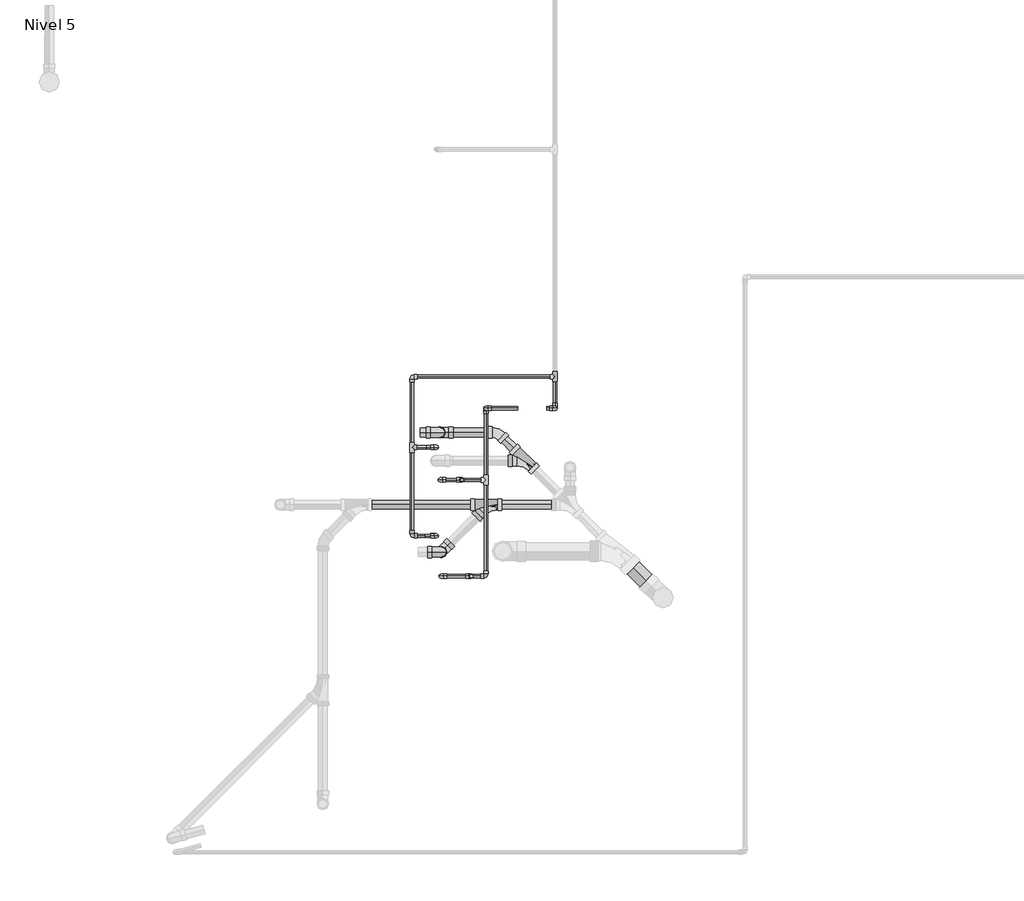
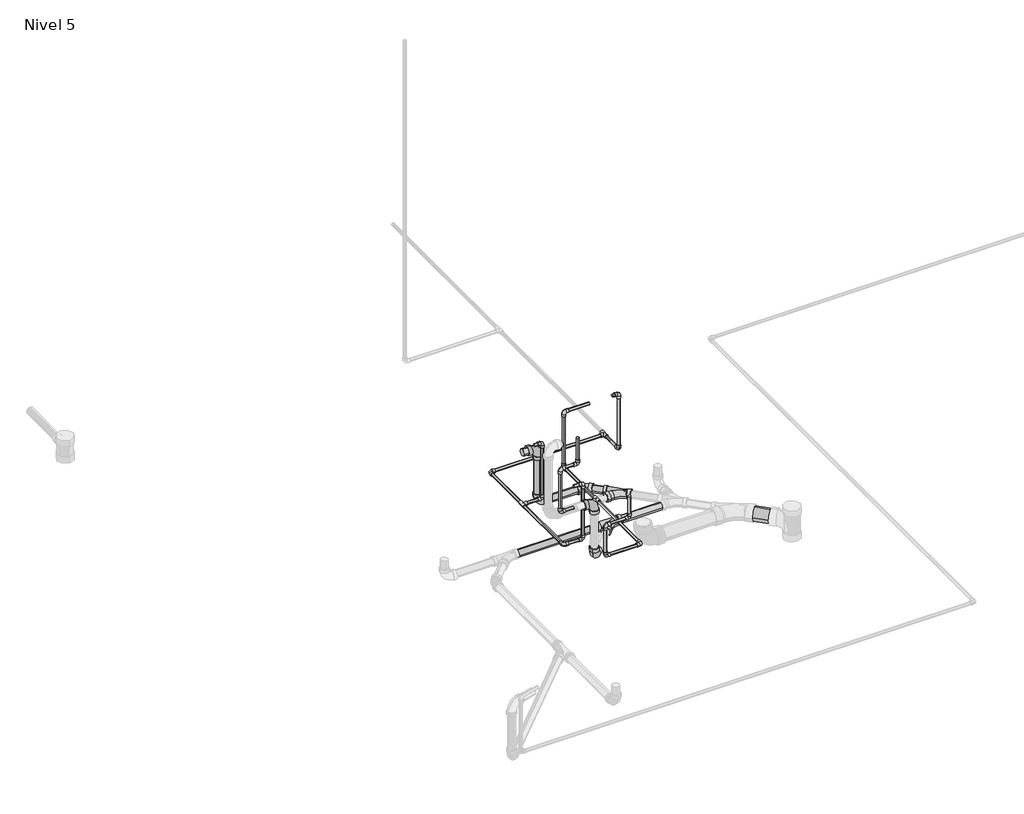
# One storey, part 2 of 6: 31 pipe segments, 27 pipe fittings.
"""IFC4 building model written with IfcOpenShell, lengths in millimetres."""

from ifc_helpers import new_model, si_unit, point, frame, frame_2d, origin, place, context, project, spatial, circle_curve, trimmed, segment, composite_curve, outline, extrude, transform, mapped, element, save
from components import pipe_fitting_ab418b84, pipe_fitting_0163322b, m_codo_pvc_serie_40_9ad74631, m_codo_pvc_serie_40_dwv1_5c0ec739, m_codo_pvc_serie_40_dwv1_6f1a2495

model = new_model("IFC4")

# Units and contexts
model_context = context("Model", 3, world=origin())
ifc_project = project(units=[si_unit("LENGTHUNIT", "METRE", prefix="MILLI")], contexts=[model_context])

# Site, building, storey
site = spatial("IfcSite", under=ifc_project)
building = spatial("IfcBuilding", under=site)
storey = spatial("IfcBuildingStorey", under=building, Name="Nivel 5", Elevation=10750.0)

# Pipe fittings
placement = place(None, origin())
pipe_fitting_shape = pipe_fitting_ab418b84(model_context)
element("IfcPipeFitting", 1, ObjectType="M_Te - PVC - Serie 40 : Estándar", at=placement, inside=storey, context=model_context, shape_type="MappedRepresentation", body=[
    mapped(pipe_fitting_shape, transform((1556.5388199, 4671.6215833, 10700.0), x_axis=(0.0, 1.0, 0.0), y_axis=(1.0, 0.0, 0.0), z_axis=(0.0, 0.0, -1.0))),
])
element("IfcPipeFitting", 2, ObjectType="M_Te - PVC - Serie 40 : Estándar", at=placement, inside=storey, context=model_context, shape_type="MappedRepresentation", body=[
    mapped(pipe_fitting_shape, transform((1981.5388199, 5307.4168039, 10700.0), x_axis=(0.0, -1.0, 0.0), y_axis=(1.0, 0.0, 0.0), z_axis=(0.0, 0.0, 1.0))),
])
element("IfcPipeFitting", 3, ObjectType="M_Te - PVC - Serie 40 : Estándar", at=placement, inside=storey, context=model_context, shape_type="MappedRepresentation", body=[
    mapped(pipe_fitting_shape, transform((1101.5388199, 4872.3958422, 10700.0), x_axis=(0.0, 1.0, 0.0), y_axis=(-1.0, 0.0, 0.0), z_axis=(0.0, 0.0, 1.0))),
])
pipe_fitting_2_shape = pipe_fitting_0163322b(model_context)
element("IfcPipeFitting", 4, ObjectType="M_Sanitario con te de reducción - PVC - Serie 40 - DWV : Estándar", at=placement, inside=storey, context=model_context, shape_type="MappedRepresentation", body=[
    mapped(pipe_fitting_2_shape, transform((1572.0708268, 4519.5791327, 10600.0), x_axis=(-1.0, 0.0, 0.0), y_axis=(0.0, 1.0, 0.0), z_axis=(0.0, 0.0, -1.0))),
])
element("IfcPipeFitting", 5, ObjectType="M_Sanitario con te de reducción - PVC - Serie 40 - DWV : Estándar", at=placement, inside=storey, context=model_context, shape_type="MappedRepresentation", body=[
    mapped(pipe_fitting_2_shape, transform((1802.6920547, 4790.0, 10600.0), x_axis=(-0.7071067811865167, 0.7071067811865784, 0.0), y_axis=(0.7071067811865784, 0.7071067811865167, 0.0), z_axis=(0.0, 0.0, -1.0))),
])
m_codo_pvc_serie_40_shape = m_codo_pvc_serie_40_9ad74631(model_context)
element("IfcPipeFitting", 6, ObjectType="M_Codo - PVC - Serie 40 : Estándar", at=placement, inside=storey, context=model_context, shape_type="MappedRepresentation", body=[
    mapped(m_codo_pvc_serie_40_shape, transform((1981.5388199, 5112.7114626, 10700.0), x_axis=(0.0, -1.0, 0.0), y_axis=(0.0, 0.0, 1.0), z_axis=(-1.0, 0.0, 0.0))),
])
element("IfcPipeFitting", 7, ObjectType="M_Codo - PVC - Serie 40 : Estándar", at=placement, inside=storey, context=model_context, shape_type="MappedRepresentation", body=[
    mapped(m_codo_pvc_serie_40_shape, transform((1981.5388199, 5112.7114626, 11150.0), x_axis=(0.0, 0.0, 1.0), y_axis=(-1.0, 0.0, 0.0), z_axis=(0.0, -1.0, 0.0))),
])
element("IfcPipeFitting", 8, ObjectType="M_Codo - PVC - Serie 40 : Estándar", at=placement, inside=storey, context=model_context, shape_type="MappedRepresentation", body=[
    mapped(m_codo_pvc_serie_40_shape, transform((1556.5388199, 5112.7114626, 11150.0), x_axis=(-1.0, 0.0, 0.0), y_axis=(0.0, 0.0, -1.0), z_axis=(0.0, -1.0, 0.0))),
])
element("IfcPipeFitting", 9, ObjectType="M_Codo - PVC - Serie 40 : Estándar", at=placement, inside=storey, context=model_context, shape_type="MappedRepresentation", body=[
    mapped(m_codo_pvc_serie_40_shape, transform((1556.5388199, 5112.7114626, 10700.0), x_axis=(0.0, 0.0, -1.0), y_axis=(0.0, -1.0, 0.0), z_axis=(-1.0, 0.0, 0.0))),
])
element("IfcPipeFitting", 10, ObjectType="M_Codo - PVC - Serie 40 : Estándar", at=placement, inside=storey, context=model_context, shape_type="MappedRepresentation", body=[
    mapped(m_codo_pvc_serie_40_shape, transform((1409.9007634, 4671.6215833, 11050.0), x_axis=(0.0, 0.0, -1.0), y_axis=(-1.0, 0.0, 0.0), z_axis=(0.0, 1.0, 0.0))),
])
element("IfcPipeFitting", 11, ObjectType="M_Codo - PVC - Serie 40 : Estándar", at=placement, inside=storey, context=model_context, shape_type="MappedRepresentation", body=[
    mapped(m_codo_pvc_serie_40_shape, transform((1274.9007634, 4671.6215833, 11050.0), x_axis=(-1.0, 0.0, 0.0), y_axis=(0.0, 0.0, -1.0), z_axis=(0.0, -1.0, 0.0))),
])
element("IfcPipeFitting", 12, ObjectType="M_Codo - PVC - Serie 40 : Estándar", at=placement, inside=storey, context=model_context, shape_type="MappedRepresentation", body=[
    mapped(m_codo_pvc_serie_40_shape, transform((1466.3192139, 4079.9135898, 10950.0), x_axis=(0.0, 0.0, -1.0), y_axis=(-1.0, 0.0, 0.0), z_axis=(0.0, 1.0, 0.0))),
])
element("IfcPipeFitting", 13, ObjectType="M_Codo - PVC - Serie 40 : Estándar", at=placement, inside=storey, context=model_context, shape_type="MappedRepresentation", body=[
    mapped(m_codo_pvc_serie_40_shape, transform((1281.3192139, 4079.9135898, 10950.0), x_axis=(-1.0, 0.0, 0.0), y_axis=(0.0, 0.0, -1.0), z_axis=(0.0, -1.0, 0.0))),
])
element("IfcPipeFitting", 14, ObjectType="M_Codo - PVC - Serie 40 : Estándar", at=placement, inside=storey, context=model_context, shape_type="MappedRepresentation", body=[
    mapped(m_codo_pvc_serie_40_shape, transform((1281.3192139, 4079.9135898, 10700.0), x_axis=(0.0, 0.0, -1.0), y_axis=(1.0, 0.0, 0.0), z_axis=(0.0, -1.0, 0.0))),
])
element("IfcPipeFitting", 15, ObjectType="M_Codo - PVC - Serie 40 : Estándar", at=placement, inside=storey, context=model_context, shape_type="MappedRepresentation", body=[
    mapped(m_codo_pvc_serie_40_shape, transform((1274.9007634, 4671.6215833, 10700.0), x_axis=(0.0, 0.0, -1.0), y_axis=(1.0, 0.0, 0.0), z_axis=(0.0, -1.0, 0.0))),
])
element("IfcPipeFitting", 16, ObjectType="M_Codo - PVC - Serie 40 : Estándar", at=placement, inside=storey, context=model_context, shape_type="MappedRepresentation", body=[
    mapped(m_codo_pvc_serie_40_shape, transform((1556.5388199, 4079.9135898, 10700.0), x_axis=(1.0, 0.0, 0.0), y_axis=(0.0, 1.0, 0.0), z_axis=(0.0, 0.0, 1.0))),
])
element("IfcPipeFitting", 17, ObjectType="M_Codo - PVC - Serie 40 : Estándar", at=placement, inside=storey, context=model_context, shape_type="MappedRepresentation", body=[
    mapped(m_codo_pvc_serie_40_shape, transform((1101.5388199, 5307.4168039, 10700.0), x_axis=(-1.0, 0.0, 0.0), y_axis=(0.0, -1.0, 0.0), z_axis=(0.0, 0.0, 1.0))),
])
element("IfcPipeFitting", 18, ObjectType="M_Codo - PVC - Serie 40 : Estándar", at=placement, inside=storey, context=model_context, shape_type="MappedRepresentation", body=[
    mapped(m_codo_pvc_serie_40_shape, transform((1101.5388199, 4327.4168039, 10700.0), x_axis=(0.0, -1.0, 0.0), y_axis=(1.0, 0.0, 0.0), z_axis=(0.0, 0.0, 1.0))),
])
element("IfcPipeFitting", 19, ObjectType="M_Codo - PVC - Serie 40 : Estándar", at=placement, inside=storey, context=model_context, shape_type="MappedRepresentation", body=[
    mapped(m_codo_pvc_serie_40_shape, transform((1251.5388199, 4327.4168039, 10700.0), x_axis=(1.0, 0.0, 0.0), y_axis=(0.0, 0.0, 1.0), z_axis=(0.0, -1.0, 0.0))),
])
element("IfcPipeFitting", 20, ObjectType="M_Codo - PVC - Serie 40 : Estándar", at=placement, inside=storey, context=model_context, shape_type="MappedRepresentation", body=[
    mapped(m_codo_pvc_serie_40_shape, transform((1251.5388199, 4327.4168039, 11150.0), x_axis=(0.0, 0.0, 1.0), y_axis=(-1.0, 0.0, 0.0), z_axis=(0.0, -1.0, 0.0))),
])
element("IfcPipeFitting", 21, ObjectType="M_Codo - PVC - Serie 40 : Estándar", at=placement, inside=storey, context=model_context, shape_type="MappedRepresentation", body=[
    mapped(m_codo_pvc_serie_40_shape, transform((1251.0515069, 4872.3958422, 11150.0), x_axis=(1.0, 0.0, 0.0), y_axis=(0.0, 0.0, -1.0), z_axis=(0.0, 1.0, 0.0))),
])
element("IfcPipeFitting", 22, ObjectType="M_Codo - PVC - Serie 40 : Estándar", at=placement, inside=storey, context=model_context, shape_type="MappedRepresentation", body=[
    mapped(m_codo_pvc_serie_40_shape, transform((1251.0515069, 4872.3958422, 10700.0), x_axis=(0.0, 0.0, -1.0), y_axis=(-1.0, 0.0, 0.0), z_axis=(0.0, 1.0, 0.0))),
])
m_codo_pvc_serie_40_dwv1_shape = m_codo_pvc_serie_40_dwv1_5c0ec739(model_context)
element("IfcPipeFitting", 23, ObjectType="M_Codo - PVC - Serie 40 - DWV1 : Estándar 2", at=placement, inside=storey, context=model_context, shape_type="MappedRepresentation", body=[
    mapped(m_codo_pvc_serie_40_dwv1_shape, transform((1281.2589343, 4228.7672402, 11050.0), x_axis=(1.0, 0.0, 0.0), y_axis=(0.0, 0.0, -1.0), z_axis=(0.0, 1.0, 0.0))),
])
element("IfcPipeFitting", 24, ObjectType="M_Codo - PVC - Serie 40 - DWV1 : Estándar 2", at=placement, inside=storey, context=model_context, shape_type="MappedRepresentation", body=[
    mapped(m_codo_pvc_serie_40_dwv1_shape, transform((1271.2589343, 4963.7672402, 11050.0), x_axis=(1.0, 0.0, 0.0), y_axis=(0.0, 0.0, -1.0), z_axis=(0.0, 1.0, 0.0))),
])
element("IfcPipeFitting", 25, ObjectType="M_Codo - PVC - Serie 40 - DWV1 : Estándar 2", at=placement, inside=storey, context=model_context, shape_type="MappedRepresentation", body=[
    mapped(m_codo_pvc_serie_40_dwv1_shape, transform((1271.2589343, 4963.7672402, 10600.0), x_axis=(0.0, 0.0, -1.0), y_axis=(1.0, 0.0, 0.0), z_axis=(0.0, -1.0, 0.0))),
])
element("IfcPipeFitting", 26, ObjectType="M_Codo - PVC - Serie 40 - DWV1 : Estándar 2", at=placement, inside=storey, context=model_context, shape_type="MappedRepresentation", body=[
    mapped(m_codo_pvc_serie_40_dwv1_shape, transform((1281.2589343, 4228.7672402, 10600.0), x_axis=(0.0, 0.0, -1.0), y_axis=(0.7071067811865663, 0.7071067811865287, 0.0), z_axis=(0.7071067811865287, -0.7071067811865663, 0.0))),
])
m_codo_pvc_serie_40_dwv1_2_shape = m_codo_pvc_serie_40_dwv1_6f1a2495(model_context)
element("IfcPipeFitting", 27, ObjectType="M_Codo - PVC - Serie 40 - DWV1 : Estándar 2", at=placement, inside=storey, context=model_context, shape_type="MappedRepresentation", body=[
    mapped(m_codo_pvc_serie_40_dwv1_2_shape, transform((1628.9248145, 4963.7672402, 10600.0), x_axis=(-0.7071067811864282, 0.7071067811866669, 0.0), y_axis=(-0.7071067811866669, -0.7071067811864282, 0.0), z_axis=(0.0, 0.0, 1.0))),
])

# Pipe segments
element("IfcPipeSegment", 28, ObjectType="Tuberia PVC Agua Fria", at=placement, inside=storey, context=model_context, shape_type="SweptSolid", body=[
    extrude(outline(composite_curve([segment(trimmed(circle_curve(frame_2d((10700.0, 1981.5388199)), 10.31875), [point((10700.0, 1971.2200699))], [point((10689.68125, 1981.5388199))], False, "CARTESIAN"), True, "CONTINUOUS"), segment(trimmed(circle_curve(frame_2d((10700.0, 1981.5388199)), 10.31875), [point((10689.68125, 1981.5388199))], [point((10700.0, 1991.8575699))], False, "CARTESIAN"), True, "CONTINUOUS"), segment(trimmed(circle_curve(frame_2d((10700.0, 1981.5388199)), 10.31875), [point((10700.0, 1991.8575699))], [point((10710.31875, 1981.5388199))], False, "CARTESIAN"), True, "CONTINUOUS"), segment(trimmed(circle_curve(frame_2d((10700.0, 1981.5388199)), 10.31875), [point((10710.31875, 1981.5388199))], [point((10700.0, 1971.2200699))], False, "CARTESIAN"), True, "CONTINUOUS")], self_intersect=False)), frame((0.0, 5146.1124626, 0.0), z_axis=(0.0, 1.0, 0.0), x_axis=(0.0, 0.0, 1.0)), (0.0, 0.0, 1.0), 130.8441851),
])
element("IfcPipeSegment", 29, ObjectType="Tuberia PVC Agua Fria", at=placement, inside=storey, context=model_context, shape_type="SweptSolid", body=[
    extrude(outline(composite_curve([segment(trimmed(circle_curve(frame_2d((5112.7114626, 11150.0)), 10.31875), [point((5123.0302126, 11150.0))], [point((5112.7114626, 11139.68125))], False, "CARTESIAN"), True, "CONTINUOUS"), segment(trimmed(circle_curve(frame_2d((5112.7114626, 11150.0)), 10.31875), [point((5112.7114626, 11139.68125))], [point((5102.3927126, 11150.0))], False, "CARTESIAN"), True, "CONTINUOUS"), segment(trimmed(circle_curve(frame_2d((5112.7114626, 11150.0)), 10.31875), [point((5102.3927126, 11150.0))], [point((5112.7114626, 11160.31875))], False, "CARTESIAN"), True, "CONTINUOUS"), segment(trimmed(circle_curve(frame_2d((5112.7114626, 11150.0)), 10.31875), [point((5112.7114626, 11160.31875))], [point((5123.0302126, 11150.0))], False, "CARTESIAN"), True, "CONTINUOUS")], self_intersect=False)), frame((1589.9398199, 0.0, 0.0), z_axis=(1.0, 0.0, 0.0), x_axis=(0.0, 1.0, 0.0)), (0.0, 0.0, 1.0), 162.599),
])
element("IfcPipeSegment", 30, ObjectType="Tuberia PVC Agua Fria", at=placement, inside=storey, context=model_context, shape_type="SweptSolid", body=[
    extrude(outline(composite_curve([segment(trimmed(circle_curve(frame_2d((1981.5388199, 5112.7114626)), 10.31875), [point((1971.2200699, 5112.7114626))], [point((1981.5388199, 5123.0302126))], False, "CARTESIAN"), True, "CONTINUOUS"), segment(trimmed(circle_curve(frame_2d((1981.5388199, 5112.7114626)), 10.31875), [point((1981.5388199, 5123.0302126))], [point((1991.8575699, 5112.7114626))], False, "CARTESIAN"), True, "CONTINUOUS"), segment(trimmed(circle_curve(frame_2d((1981.5388199, 5112.7114626)), 10.31875), [point((1991.8575699, 5112.7114626))], [point((1981.5388199, 5102.3927126))], False, "CARTESIAN"), True, "CONTINUOUS"), segment(trimmed(circle_curve(frame_2d((1981.5388199, 5112.7114626)), 10.31875), [point((1981.5388199, 5102.3927126))], [point((1971.2200699, 5112.7114626))], False, "CARTESIAN"), True, "CONTINUOUS")], self_intersect=False)), frame((0.0, 0.0, 10733.401), z_axis=(0.0, 0.0, 1.0), x_axis=(1.0, 0.0, 0.0)), (0.0, 0.0, 1.0), 383.198),
])
element("IfcPipeSegment", 31, ObjectType="Tuberia PVC Agua Fria", at=placement, inside=storey, context=model_context, shape_type="SweptSolid", body=[
    extrude(outline(composite_curve([segment(trimmed(circle_curve(frame_2d((10700.0, 1556.5388199)), 10.31875), [point((10700.0, 1566.8575699))], [point((10710.31875, 1556.5388199))], False, "CARTESIAN"), True, "CONTINUOUS"), segment(trimmed(circle_curve(frame_2d((10700.0, 1556.5388199)), 10.31875), [point((10710.31875, 1556.5388199))], [point((10700.0, 1546.2200699))], False, "CARTESIAN"), True, "CONTINUOUS"), segment(trimmed(circle_curve(frame_2d((10700.0, 1556.5388199)), 10.31875), [point((10700.0, 1546.2200699))], [point((10689.68125, 1556.5388199))], False, "CARTESIAN"), True, "CONTINUOUS"), segment(trimmed(circle_curve(frame_2d((10700.0, 1556.5388199)), 10.31875), [point((10689.68125, 1556.5388199))], [point((10700.0, 1566.8575699))], False, "CARTESIAN"), True, "CONTINUOUS")], self_intersect=False)), frame((0.0, 4113.3145898, 0.0), z_axis=(0.0, 1.0, 0.0), x_axis=(0.0, 0.0, 1.0)), (0.0, 0.0, 1.0), 527.8468372),
])
element("IfcPipeSegment", 32, ObjectType="Tuberia PVC Agua Fria", at=placement, inside=storey, context=model_context, shape_type="SweptSolid", body=[
    extrude(outline(composite_curve([segment(trimmed(circle_curve(frame_2d((1556.5388199, 5112.7114626)), 10.31875), [point((1566.8575699, 5112.7114626))], [point((1556.5388199, 5102.3927126))], False, "CARTESIAN"), True, "CONTINUOUS"), segment(trimmed(circle_curve(frame_2d((1556.5388199, 5112.7114626)), 10.31875), [point((1556.5388199, 5102.3927126))], [point((1546.2200699, 5112.7114626))], False, "CARTESIAN"), True, "CONTINUOUS"), segment(trimmed(circle_curve(frame_2d((1556.5388199, 5112.7114626)), 10.31875), [point((1546.2200699, 5112.7114626))], [point((1556.5388199, 5123.0302126))], False, "CARTESIAN"), True, "CONTINUOUS"), segment(trimmed(circle_curve(frame_2d((1556.5388199, 5112.7114626)), 10.31875), [point((1556.5388199, 5123.0302126))], [point((1566.8575699, 5112.7114626))], False, "CARTESIAN"), True, "CONTINUOUS")], self_intersect=False)), frame((0.0, 0.0, 10733.401), z_axis=(0.0, 0.0, 1.0), x_axis=(1.0, 0.0, 0.0)), (0.0, 0.0, 1.0), 383.198),
])
element("IfcPipeSegment", 33, ObjectType="Tuberia PVC Agua Fria", at=placement, inside=storey, context=model_context, shape_type="SweptSolid", body=[
    extrude(outline(composite_curve([segment(trimmed(circle_curve(frame_2d((5112.7114626, 11150.0)), 10.31875), [point((5123.0302126, 11150.0))], [point((5112.7114626, 11139.68125))], False, "CARTESIAN"), True, "CONTINUOUS"), segment(trimmed(circle_curve(frame_2d((5112.7114626, 11150.0)), 10.31875), [point((5112.7114626, 11139.68125))], [point((5102.3927126, 11150.0))], False, "CARTESIAN"), True, "CONTINUOUS"), segment(trimmed(circle_curve(frame_2d((5112.7114626, 11150.0)), 10.31875), [point((5102.3927126, 11150.0))], [point((5112.7114626, 11160.31875))], False, "CARTESIAN"), True, "CONTINUOUS"), segment(trimmed(circle_curve(frame_2d((5112.7114626, 11150.0)), 10.31875), [point((5112.7114626, 11160.31875))], [point((5123.0302126, 11150.0))], False, "CARTESIAN"), True, "CONTINUOUS")], self_intersect=False)), frame((1930.5388199, 0.0, 0.0), z_axis=(1.0, 0.0, 0.0), x_axis=(0.0, 1.0, 0.0)), (0.0, 0.0, 1.0), 17.599),
])
element("IfcPipeSegment", 34, ObjectType="Tuberia PVC Agua Fria", at=placement, inside=storey, context=model_context, shape_type="SweptSolid", body=[
    extrude(outline(composite_curve([segment(trimmed(circle_curve(frame_2d((4671.6215833, 11050.0)), 10.31875), [point((4681.9403333, 11050.0))], [point((4671.6215833, 11039.68125))], False, "CARTESIAN"), True, "CONTINUOUS"), segment(trimmed(circle_curve(frame_2d((4671.6215833, 11050.0)), 10.31875), [point((4671.6215833, 11039.68125))], [point((4661.3028333, 11050.0))], False, "CARTESIAN"), True, "CONTINUOUS"), segment(trimmed(circle_curve(frame_2d((4671.6215833, 11050.0)), 10.31875), [point((4661.3028333, 11050.0))], [point((4671.6215833, 11060.31875))], False, "CARTESIAN"), True, "CONTINUOUS"), segment(trimmed(circle_curve(frame_2d((4671.6215833, 11050.0)), 10.31875), [point((4671.6215833, 11060.31875))], [point((4681.9403333, 11050.0))], False, "CARTESIAN"), True, "CONTINUOUS")], self_intersect=False)), frame((1308.3017634, 0.0, 0.0), z_axis=(1.0, 0.0, 0.0), x_axis=(0.0, 1.0, 0.0)), (0.0, 0.0, 1.0), 68.198),
])
element("IfcPipeSegment", 35, ObjectType="Tuberia PVC Agua Fria", at=placement, inside=storey, context=model_context, shape_type="SweptSolid", body=[
    extrude(outline(composite_curve([segment(trimmed(circle_curve(frame_2d((1409.9007634, 4671.6215833)), 10.31875), [point((1420.2195134, 4671.6215833))], [point((1409.9007634, 4661.3028333))], False, "CARTESIAN"), True, "CONTINUOUS"), segment(trimmed(circle_curve(frame_2d((1409.9007634, 4671.6215833)), 10.31875), [point((1409.9007634, 4661.3028333))], [point((1399.5820134, 4671.6215833))], False, "CARTESIAN"), True, "CONTINUOUS"), segment(trimmed(circle_curve(frame_2d((1409.9007634, 4671.6215833)), 10.31875), [point((1399.5820134, 4671.6215833))], [point((1409.9007634, 4681.9403333))], False, "CARTESIAN"), True, "CONTINUOUS"), segment(trimmed(circle_curve(frame_2d((1409.9007634, 4671.6215833)), 10.31875), [point((1409.9007634, 4681.9403333))], [point((1420.2195134, 4671.6215833))], False, "CARTESIAN"), True, "CONTINUOUS")], self_intersect=False)), frame((0.0, 0.0, 11083.401), z_axis=(0.0, 0.0, 1.0), x_axis=(1.0, 0.0, 0.0)), (0.0, 0.0, 1.0), 174.0983614),
])
element("IfcPipeSegment", 36, ObjectType="Tuberia PVC Agua Fria", at=placement, inside=storey, context=model_context, shape_type="SweptSolid", body=[
    extrude(outline(composite_curve([segment(trimmed(circle_curve(frame_2d((4671.6215833, 10700.0)), 10.31875), [point((4661.3028333, 10700.0))], [point((4671.6215833, 10710.31875))], False, "CARTESIAN"), True, "CONTINUOUS"), segment(trimmed(circle_curve(frame_2d((4671.6215833, 10700.0)), 10.31875), [point((4671.6215833, 10710.31875))], [point((4681.9403333, 10700.0))], False, "CARTESIAN"), True, "CONTINUOUS"), segment(trimmed(circle_curve(frame_2d((4671.6215833, 10700.0)), 10.31875), [point((4681.9403333, 10700.0))], [point((4671.6215833, 10689.68125))], False, "CARTESIAN"), True, "CONTINUOUS"), segment(trimmed(circle_curve(frame_2d((4671.6215833, 10700.0)), 10.31875), [point((4671.6215833, 10689.68125))], [point((4661.3028333, 10700.0))], False, "CARTESIAN"), True, "CONTINUOUS")], self_intersect=False)), frame((1308.3017634, 0.0, 0.0), z_axis=(1.0, 0.0, 0.0), x_axis=(0.0, 1.0, 0.0)), (0.0, 0.0, 1.0), 217.7769003),
])
element("IfcPipeSegment", 37, ObjectType="Tuberia PVC Agua Fria", at=placement, inside=storey, context=model_context, shape_type="SweptSolid", body=[
    extrude(outline(composite_curve([segment(trimmed(circle_curve(frame_2d((1274.9007634, 4671.6215833)), 10.31875), [point((1285.2195134, 4671.6215833))], [point((1274.9007634, 4661.3028333))], False, "CARTESIAN"), True, "CONTINUOUS"), segment(trimmed(circle_curve(frame_2d((1274.9007634, 4671.6215833)), 10.31875), [point((1274.9007634, 4661.3028333))], [point((1264.5820134, 4671.6215833))], False, "CARTESIAN"), True, "CONTINUOUS"), segment(trimmed(circle_curve(frame_2d((1274.9007634, 4671.6215833)), 10.31875), [point((1264.5820134, 4671.6215833))], [point((1274.9007634, 4681.9403333))], False, "CARTESIAN"), True, "CONTINUOUS"), segment(trimmed(circle_curve(frame_2d((1274.9007634, 4671.6215833)), 10.31875), [point((1274.9007634, 4681.9403333))], [point((1285.2195134, 4671.6215833))], False, "CARTESIAN"), True, "CONTINUOUS")], self_intersect=False)), frame((0.0, 0.0, 10733.401), z_axis=(0.0, 0.0, 1.0), x_axis=(1.0, 0.0, 0.0)), (0.0, 0.0, 1.0), 283.198),
])
element("IfcPipeSegment", 38, ObjectType="Tuberia PVC Agua Fria", at=placement, inside=storey, context=model_context, shape_type="SweptSolid", body=[
    extrude(outline(composite_curve([segment(trimmed(circle_curve(frame_2d((4079.9135898, 10950.0)), 10.31875), [point((4090.2323398, 10950.0))], [point((4079.9135898, 10939.68125))], False, "CARTESIAN"), True, "CONTINUOUS"), segment(trimmed(circle_curve(frame_2d((4079.9135898, 10950.0)), 10.31875), [point((4079.9135898, 10939.68125))], [point((4069.5948398, 10950.0))], False, "CARTESIAN"), True, "CONTINUOUS"), segment(trimmed(circle_curve(frame_2d((4079.9135898, 10950.0)), 10.31875), [point((4069.5948398, 10950.0))], [point((4079.9135898, 10960.31875))], False, "CARTESIAN"), True, "CONTINUOUS"), segment(trimmed(circle_curve(frame_2d((4079.9135898, 10950.0)), 10.31875), [point((4079.9135898, 10960.31875))], [point((4090.2323398, 10950.0))], False, "CARTESIAN"), True, "CONTINUOUS")], self_intersect=False)), frame((1314.7202139, 0.0, 0.0), z_axis=(1.0, 0.0, 0.0), x_axis=(0.0, 1.0, 0.0)), (0.0, 0.0, 1.0), 118.198),
])
element("IfcPipeSegment", 39, ObjectType="Tuberia PVC Agua Fria", at=placement, inside=storey, context=model_context, shape_type="SweptSolid", body=[
    extrude(outline(composite_curve([segment(trimmed(circle_curve(frame_2d((1466.3192139, 4079.9135898)), 10.31875), [point((1476.6379639, 4079.9135898))], [point((1466.3192139, 4069.5948398))], False, "CARTESIAN"), True, "CONTINUOUS"), segment(trimmed(circle_curve(frame_2d((1466.3192139, 4079.9135898)), 10.31875), [point((1466.3192139, 4069.5948398))], [point((1456.0004639, 4079.9135898))], False, "CARTESIAN"), True, "CONTINUOUS"), segment(trimmed(circle_curve(frame_2d((1466.3192139, 4079.9135898)), 10.31875), [point((1456.0004639, 4079.9135898))], [point((1466.3192139, 4090.2323398))], False, "CARTESIAN"), True, "CONTINUOUS"), segment(trimmed(circle_curve(frame_2d((1466.3192139, 4079.9135898)), 10.31875), [point((1466.3192139, 4090.2323398))], [point((1476.6379639, 4079.9135898))], False, "CARTESIAN"), True, "CONTINUOUS")], self_intersect=False)), frame((0.0, 0.0, 10983.401), z_axis=(0.0, 0.0, 1.0), x_axis=(1.0, 0.0, 0.0)), (0.0, 0.0, 1.0), 139.7562509),
])
element("IfcPipeSegment", 40, ObjectType="Tuberia PVC Agua Fria", at=placement, inside=storey, context=model_context, shape_type="SweptSolid", body=[
    extrude(outline(composite_curve([segment(trimmed(circle_curve(frame_2d((4079.9135898, 10700.0)), 10.31875), [point((4069.5948398, 10700.0))], [point((4079.9135898, 10710.31875))], False, "CARTESIAN"), True, "CONTINUOUS"), segment(trimmed(circle_curve(frame_2d((4079.9135898, 10700.0)), 10.31875), [point((4079.9135898, 10710.31875))], [point((4090.2323398, 10700.0))], False, "CARTESIAN"), True, "CONTINUOUS"), segment(trimmed(circle_curve(frame_2d((4079.9135898, 10700.0)), 10.31875), [point((4090.2323398, 10700.0))], [point((4079.9135898, 10689.68125))], False, "CARTESIAN"), True, "CONTINUOUS"), segment(trimmed(circle_curve(frame_2d((4079.9135898, 10700.0)), 10.31875), [point((4079.9135898, 10689.68125))], [point((4069.5948398, 10700.0))], False, "CARTESIAN"), True, "CONTINUOUS")], self_intersect=False)), frame((1314.7202139, 0.0, 0.0), z_axis=(1.0, 0.0, 0.0), x_axis=(0.0, 1.0, 0.0)), (0.0, 0.0, 1.0), 208.417606),
])
element("IfcPipeSegment", 41, ObjectType="Tuberia PVC Agua Fria", at=placement, inside=storey, context=model_context, shape_type="SweptSolid", body=[
    extrude(outline(composite_curve([segment(trimmed(circle_curve(frame_2d((1281.3192139, 4079.9135898)), 10.31875), [point((1291.6379639, 4079.9135898))], [point((1281.3192139, 4069.5948398))], False, "CARTESIAN"), True, "CONTINUOUS"), segment(trimmed(circle_curve(frame_2d((1281.3192139, 4079.9135898)), 10.31875), [point((1281.3192139, 4069.5948398))], [point((1271.0004639, 4079.9135898))], False, "CARTESIAN"), True, "CONTINUOUS"), segment(trimmed(circle_curve(frame_2d((1281.3192139, 4079.9135898)), 10.31875), [point((1271.0004639, 4079.9135898))], [point((1281.3192139, 4090.2323398))], False, "CARTESIAN"), True, "CONTINUOUS"), segment(trimmed(circle_curve(frame_2d((1281.3192139, 4079.9135898)), 10.31875), [point((1281.3192139, 4090.2323398))], [point((1291.6379639, 4079.9135898))], False, "CARTESIAN"), True, "CONTINUOUS")], self_intersect=False)), frame((0.0, 0.0, 10733.401), z_axis=(0.0, 0.0, 1.0), x_axis=(1.0, 0.0, 0.0)), (0.0, 0.0, 1.0), 183.198),
])
element("IfcPipeSegment", 42, ObjectType="Tuberia PVC Agua Fria", at=placement, inside=storey, context=model_context, shape_type="SweptSolid", body=[
    extrude(outline(composite_curve([segment(trimmed(circle_curve(frame_2d((10700.0, 1556.5388199)), 10.31875), [point((10700.0, 1546.2200699))], [point((10689.68125, 1556.5388199))], False, "CARTESIAN"), True, "CONTINUOUS"), segment(trimmed(circle_curve(frame_2d((10700.0, 1556.5388199)), 10.31875), [point((10689.68125, 1556.5388199))], [point((10700.0, 1566.8575699))], False, "CARTESIAN"), True, "CONTINUOUS"), segment(trimmed(circle_curve(frame_2d((10700.0, 1556.5388199)), 10.31875), [point((10700.0, 1566.8575699))], [point((10710.31875, 1556.5388199))], False, "CARTESIAN"), True, "CONTINUOUS"), segment(trimmed(circle_curve(frame_2d((10700.0, 1556.5388199)), 10.31875), [point((10710.31875, 1556.5388199))], [point((10700.0, 1546.2200699))], False, "CARTESIAN"), True, "CONTINUOUS")], self_intersect=False)), frame((0.0, 4702.0817396, 0.0), z_axis=(0.0, 1.0, 0.0), x_axis=(0.0, 0.0, 1.0)), (0.0, 0.0, 1.0), 377.228723),
])
element("IfcPipeSegment", 43, ObjectType="Tuberia PVC Agua Fria", at=placement, inside=storey, context=model_context, shape_type="SweptSolid", body=[
    extrude(outline(composite_curve([segment(trimmed(circle_curve(frame_2d((5307.4168039, 10700.0)), 10.31875), [point((5317.7355539, 10700.0))], [point((5307.4168039, 10689.68125))], False, "CARTESIAN"), True, "CONTINUOUS"), segment(trimmed(circle_curve(frame_2d((5307.4168039, 10700.0)), 10.31875), [point((5307.4168039, 10689.68125))], [point((5297.0980539, 10700.0))], False, "CARTESIAN"), True, "CONTINUOUS"), segment(trimmed(circle_curve(frame_2d((5307.4168039, 10700.0)), 10.31875), [point((5297.0980539, 10700.0))], [point((5307.4168039, 10710.31875))], False, "CARTESIAN"), True, "CONTINUOUS"), segment(trimmed(circle_curve(frame_2d((5307.4168039, 10700.0)), 10.31875), [point((5307.4168039, 10710.31875))], [point((5317.7355539, 10700.0))], False, "CARTESIAN"), True, "CONTINUOUS")], self_intersect=False)), frame((1134.9398199, 0.0, 0.0), z_axis=(1.0, 0.0, 0.0), x_axis=(0.0, 1.0, 0.0)), (0.0, 0.0, 1.0), 816.1388437),
])
element("IfcPipeSegment", 44, ObjectType="Tuberia PVC Agua Fria", at=placement, inside=storey, context=model_context, shape_type="SweptSolid", body=[
    extrude(outline(composite_curve([segment(trimmed(circle_curve(frame_2d((10700.0, 1101.5388199)), 10.31875), [point((10700.0, 1091.2200699))], [point((10689.68125, 1101.5388199))], False, "CARTESIAN"), True, "CONTINUOUS"), segment(trimmed(circle_curve(frame_2d((10700.0, 1101.5388199)), 10.31875), [point((10689.68125, 1101.5388199))], [point((10700.0, 1111.8575699))], False, "CARTESIAN"), True, "CONTINUOUS"), segment(trimmed(circle_curve(frame_2d((10700.0, 1101.5388199)), 10.31875), [point((10700.0, 1111.8575699))], [point((10710.31875, 1101.5388199))], False, "CARTESIAN"), True, "CONTINUOUS"), segment(trimmed(circle_curve(frame_2d((10700.0, 1101.5388199)), 10.31875), [point((10710.31875, 1101.5388199))], [point((10700.0, 1091.2200699))], False, "CARTESIAN"), True, "CONTINUOUS")], self_intersect=False)), frame((0.0, 4360.8178039, 0.0), z_axis=(0.0, 1.0, 0.0), x_axis=(0.0, 0.0, 1.0)), (0.0, 0.0, 1.0), 481.1178821),
])
element("IfcPipeSegment", 45, ObjectType="Tuberia PVC Agua Fria", at=placement, inside=storey, context=model_context, shape_type="SweptSolid", body=[
    extrude(outline(composite_curve([segment(trimmed(circle_curve(frame_2d((4327.4168039, 10700.0)), 10.31875), [point((4317.0980539, 10700.0))], [point((4327.4168039, 10710.31875))], False, "CARTESIAN"), True, "CONTINUOUS"), segment(trimmed(circle_curve(frame_2d((4327.4168039, 10700.0)), 10.31875), [point((4327.4168039, 10710.31875))], [point((4337.7355539, 10700.0))], False, "CARTESIAN"), True, "CONTINUOUS"), segment(trimmed(circle_curve(frame_2d((4327.4168039, 10700.0)), 10.31875), [point((4337.7355539, 10700.0))], [point((4327.4168039, 10689.68125))], False, "CARTESIAN"), True, "CONTINUOUS"), segment(trimmed(circle_curve(frame_2d((4327.4168039, 10700.0)), 10.31875), [point((4327.4168039, 10689.68125))], [point((4317.0980539, 10700.0))], False, "CARTESIAN"), True, "CONTINUOUS")], self_intersect=False)), frame((1134.9398199, 0.0, 0.0), z_axis=(1.0, 0.0, 0.0), x_axis=(0.0, 1.0, 0.0)), (0.0, 0.0, 1.0), 83.198),
])
element("IfcPipeSegment", 46, ObjectType="Tuberia PVC Agua Fria", at=placement, inside=storey, context=model_context, shape_type="SweptSolid", body=[
    extrude(outline(composite_curve([segment(trimmed(circle_curve(frame_2d((4327.4168039, 11150.0)), 10.31875), [point((4337.7355539, 11150.0))], [point((4327.4168039, 11139.68125))], False, "CARTESIAN"), True, "CONTINUOUS"), segment(trimmed(circle_curve(frame_2d((4327.4168039, 11150.0)), 10.31875), [point((4327.4168039, 11139.68125))], [point((4317.0980539, 11150.0))], False, "CARTESIAN"), True, "CONTINUOUS"), segment(trimmed(circle_curve(frame_2d((4327.4168039, 11150.0)), 10.31875), [point((4317.0980539, 11150.0))], [point((4327.4168039, 11160.31875))], False, "CARTESIAN"), True, "CONTINUOUS"), segment(trimmed(circle_curve(frame_2d((4327.4168039, 11150.0)), 10.31875), [point((4327.4168039, 11160.31875))], [point((4337.7355539, 11150.0))], False, "CARTESIAN"), True, "CONTINUOUS")], self_intersect=False)), frame((1181.5388199, 0.0, 0.0), z_axis=(1.0, 0.0, 0.0), x_axis=(0.0, 1.0, 0.0)), (0.0, 0.0, 1.0), 36.599),
])
element("IfcPipeSegment", 47, ObjectType="Tuberia PVC Agua Fria", at=placement, inside=storey, context=model_context, shape_type="SweptSolid", body=[
    extrude(outline(composite_curve([segment(trimmed(circle_curve(frame_2d((1251.5388199, 4327.4168039)), 10.31875), [point((1241.2200699, 4327.4168039))], [point((1251.5388199, 4337.7355539))], False, "CARTESIAN"), True, "CONTINUOUS"), segment(trimmed(circle_curve(frame_2d((1251.5388199, 4327.4168039)), 10.31875), [point((1251.5388199, 4337.7355539))], [point((1261.8575699, 4327.4168039))], False, "CARTESIAN"), True, "CONTINUOUS"), segment(trimmed(circle_curve(frame_2d((1251.5388199, 4327.4168039)), 10.31875), [point((1261.8575699, 4327.4168039))], [point((1251.5388199, 4317.0980539))], False, "CARTESIAN"), True, "CONTINUOUS"), segment(trimmed(circle_curve(frame_2d((1251.5388199, 4327.4168039)), 10.31875), [point((1251.5388199, 4317.0980539))], [point((1241.2200699, 4327.4168039))], False, "CARTESIAN"), True, "CONTINUOUS")], self_intersect=False)), frame((0.0, 0.0, 10733.401), z_axis=(0.0, 0.0, 1.0), x_axis=(1.0, 0.0, 0.0)), (0.0, 0.0, 1.0), 383.198),
])
element("IfcPipeSegment", 48, ObjectType="Tuberia PVC Agua Fria", at=placement, inside=storey, context=model_context, shape_type="SweptSolid", body=[
    extrude(outline(composite_curve([segment(trimmed(circle_curve(frame_2d((4872.3958422, 11150.0)), 10.31875), [point((4862.0770922, 11150.0))], [point((4872.3958422, 11160.31875))], False, "CARTESIAN"), True, "CONTINUOUS"), segment(trimmed(circle_curve(frame_2d((4872.3958422, 11150.0)), 10.31875), [point((4872.3958422, 11160.31875))], [point((4882.7145922, 11150.0))], False, "CARTESIAN"), True, "CONTINUOUS"), segment(trimmed(circle_curve(frame_2d((4872.3958422, 11150.0)), 10.31875), [point((4882.7145922, 11150.0))], [point((4872.3958422, 11139.68125))], False, "CARTESIAN"), True, "CONTINUOUS"), segment(trimmed(circle_curve(frame_2d((4872.3958422, 11150.0)), 10.31875), [point((4872.3958422, 11139.68125))], [point((4862.0770922, 11150.0))], False, "CARTESIAN"), True, "CONTINUOUS")], self_intersect=False)), frame((1191.0515069, 0.0, 0.0), z_axis=(1.0, 0.0, 0.0), x_axis=(0.0, 1.0, 0.0)), (0.0, 0.0, 1.0), 26.599),
])
element("IfcPipeSegment", 49, ObjectType="Tuberia PVC Agua Fria", at=placement, inside=storey, context=model_context, shape_type="SweptSolid", body=[
    extrude(outline(composite_curve([segment(trimmed(circle_curve(frame_2d((4872.3958422, 10700.0)), 10.31875), [point((4862.0770922, 10700.0))], [point((4872.3958422, 10710.31875))], False, "CARTESIAN"), True, "CONTINUOUS"), segment(trimmed(circle_curve(frame_2d((4872.3958422, 10700.0)), 10.31875), [point((4872.3958422, 10710.31875))], [point((4882.7145922, 10700.0))], False, "CARTESIAN"), True, "CONTINUOUS"), segment(trimmed(circle_curve(frame_2d((4872.3958422, 10700.0)), 10.31875), [point((4882.7145922, 10700.0))], [point((4872.3958422, 10689.68125))], False, "CARTESIAN"), True, "CONTINUOUS"), segment(trimmed(circle_curve(frame_2d((4872.3958422, 10700.0)), 10.31875), [point((4872.3958422, 10689.68125))], [point((4862.0770922, 10700.0))], False, "CARTESIAN"), True, "CONTINUOUS")], self_intersect=False)), frame((1131.9989761, 0.0, 0.0), z_axis=(1.0, 0.0, 0.0), x_axis=(0.0, 1.0, 0.0)), (0.0, 0.0, 1.0), 85.6515307),
])
element("IfcPipeSegment", 50, ObjectType="Tuberia PVC Agua Fria", at=placement, inside=storey, context=model_context, shape_type="SweptSolid", body=[
    extrude(outline(composite_curve([segment(trimmed(circle_curve(frame_2d((1251.0515069, 4872.3958422)), 10.31875), [point((1261.3702569, 4872.3958422))], [point((1251.0515069, 4862.0770922))], False, "CARTESIAN"), True, "CONTINUOUS"), segment(trimmed(circle_curve(frame_2d((1251.0515069, 4872.3958422)), 10.31875), [point((1251.0515069, 4862.0770922))], [point((1240.7327569, 4872.3958422))], False, "CARTESIAN"), True, "CONTINUOUS"), segment(trimmed(circle_curve(frame_2d((1251.0515069, 4872.3958422)), 10.31875), [point((1240.7327569, 4872.3958422))], [point((1251.0515069, 4882.7145922))], False, "CARTESIAN"), True, "CONTINUOUS"), segment(trimmed(circle_curve(frame_2d((1251.0515069, 4872.3958422)), 10.31875), [point((1251.0515069, 4882.7145922))], [point((1261.3702569, 4872.3958422))], False, "CARTESIAN"), True, "CONTINUOUS")], self_intersect=False)), frame((0.0, 0.0, 10733.401), z_axis=(0.0, 0.0, 1.0), x_axis=(1.0, 0.0, 0.0)), (0.0, 0.0, 1.0), 383.198),
])
element("IfcPipeSegment", 51, ObjectType="Tuberia PVC Agua Fria", at=placement, inside=storey, context=model_context, shape_type="SweptSolid", body=[
    extrude(outline(composite_curve([segment(trimmed(circle_curve(frame_2d((10700.0, 1101.5388199)), 10.31875), [point((10700.0, 1091.2200699))], [point((10689.68125, 1101.5388199))], False, "CARTESIAN"), True, "CONTINUOUS"), segment(trimmed(circle_curve(frame_2d((10700.0, 1101.5388199)), 10.31875), [point((10689.68125, 1101.5388199))], [point((10700.0, 1111.8575699))], False, "CARTESIAN"), True, "CONTINUOUS"), segment(trimmed(circle_curve(frame_2d((10700.0, 1101.5388199)), 10.31875), [point((10700.0, 1111.8575699))], [point((10710.31875, 1101.5388199))], False, "CARTESIAN"), True, "CONTINUOUS"), segment(trimmed(circle_curve(frame_2d((10700.0, 1101.5388199)), 10.31875), [point((10710.31875, 1101.5388199))], [point((10700.0, 1091.2200699))], False, "CARTESIAN"), True, "CONTINUOUS")], self_intersect=False)), frame((0.0, 4902.8559985, 0.0), z_axis=(0.0, 1.0, 0.0), x_axis=(0.0, 0.0, 1.0)), (0.0, 0.0, 1.0), 371.1598054),
])
element("IfcPipeSegment", 52, ObjectType="Tuberia PVC Sanitario", at=placement, inside=storey, context=model_context, shape_type="SweptSolid", body=[
    extrude(outline(composite_curve([segment(trimmed(circle_curve(frame_2d((0.0, -52.3875)), 52.3875), [point((-52.3875, -52.3875))], [point((0.0, 0.0))], False, "CARTESIAN"), True, "CONTINUOUS"), segment(trimmed(circle_curve(frame_2d((0.0, -52.3875)), 52.3875), [point((0.0, 0.0))], [point((52.3875, -52.3875))], False, "CARTESIAN"), True, "CONTINUOUS"), segment(trimmed(circle_curve(frame_2d((0.0, -52.3875)), 52.3875), [point((52.3875, -52.3875))], [point((0.0, -104.775))], False, "CARTESIAN"), True, "CONTINUOUS"), segment(trimmed(circle_curve(frame_2d((0.0, -52.3875)), 52.3875), [point((0.0, -104.775))], [point((-52.3875, -52.3875))], False, "CARTESIAN"), True, "CONTINUOUS")], self_intersect=False)), frame((2540.7868674, 4051.7206996, 10547.6125), z_axis=(-0.7062892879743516, 0.7079233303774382, 0.0), x_axis=(0.7079233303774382, 0.7062892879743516, 0.0)), (0.0, 0.0, 1.0), 112.9026205),
])
element("IfcPipeSegment", 53, ObjectType="Tuberia PVC Sanitario", at=placement, inside=storey, context=model_context, shape_type="SweptSolid", body=[
    extrude(outline(composite_curve([segment(trimmed(circle_curve(frame_2d((4963.7672402, 11050.0)), 26.9875), [point((4990.7547402, 11050.0))], [point((4963.7672402, 11023.0125))], False, "CARTESIAN"), True, "CONTINUOUS"), segment(trimmed(circle_curve(frame_2d((4963.7672402, 11050.0)), 26.9875), [point((4963.7672402, 11023.0125))], [point((4936.7797402, 11050.0))], False, "CARTESIAN"), True, "CONTINUOUS"), segment(trimmed(circle_curve(frame_2d((4963.7672402, 11050.0)), 26.9875), [point((4936.7797402, 11050.0))], [point((4963.7672402, 11076.9875))], False, "CARTESIAN"), True, "CONTINUOUS"), segment(trimmed(circle_curve(frame_2d((4963.7672402, 11050.0)), 26.9875), [point((4963.7672402, 11076.9875))], [point((4990.7547402, 11050.0))], False, "CARTESIAN"), True, "CONTINUOUS")], self_intersect=False)), frame((1151.2589343, 0.0, 0.0), z_axis=(1.0, 0.0, 0.0), x_axis=(0.0, 1.0, 0.0)), (0.0, 0.0, 1.0), 37.4579375),
])
element("IfcPipeSegment", 54, ObjectType="Tuberia PVC Sanitario", at=placement, inside=storey, context=model_context, shape_type="SweptSolid", body=[
    extrude(outline(composite_curve([segment(trimmed(circle_curve(frame_2d((4963.7672402, 10600.0)), 26.9875), [point((4936.7797402, 10600.0))], [point((4963.7672402, 10626.9875))], False, "CARTESIAN"), True, "CONTINUOUS"), segment(trimmed(circle_curve(frame_2d((4963.7672402, 10600.0)), 26.9875), [point((4963.7672402, 10626.9875))], [point((4990.7547402, 10600.0))], False, "CARTESIAN"), True, "CONTINUOUS"), segment(trimmed(circle_curve(frame_2d((4963.7672402, 10600.0)), 26.9875), [point((4990.7547402, 10600.0))], [point((4963.7672402, 10573.0125))], False, "CARTESIAN"), True, "CONTINUOUS"), segment(trimmed(circle_curve(frame_2d((4963.7672402, 10600.0)), 26.9875), [point((4963.7672402, 10573.0125))], [point((4936.7797402, 10600.0))], False, "CARTESIAN"), True, "CONTINUOUS")], self_intersect=False)), frame((1353.8009968, 0.0, 0.0), z_axis=(1.0, 0.0, 0.0), x_axis=(0.0, 1.0, 0.0)), (0.0, 0.0, 1.0), 214.6956302),
])
element("IfcPipeSegment", 55, ObjectType="Tuberia PVC Sanitario", at=placement, inside=storey, context=model_context, shape_type="SweptSolid", body=[
    extrude(outline(composite_curve([segment(trimmed(circle_curve(frame_2d((1271.2589343, 4963.7672402)), 26.9875), [point((1298.2464343, 4963.7672402))], [point((1271.2589343, 4936.7797402))], False, "CARTESIAN"), True, "CONTINUOUS"), segment(trimmed(circle_curve(frame_2d((1271.2589343, 4963.7672402)), 26.9875), [point((1271.2589343, 4936.7797402))], [point((1244.2714343, 4963.7672402))], False, "CARTESIAN"), True, "CONTINUOUS"), segment(trimmed(circle_curve(frame_2d((1271.2589343, 4963.7672402)), 26.9875), [point((1244.2714343, 4963.7672402))], [point((1271.2589343, 4990.7547402))], False, "CARTESIAN"), True, "CONTINUOUS"), segment(trimmed(circle_curve(frame_2d((1271.2589343, 4963.7672402)), 26.9875), [point((1271.2589343, 4990.7547402))], [point((1298.2464343, 4963.7672402))], False, "CARTESIAN"), True, "CONTINUOUS")], self_intersect=False)), frame((0.0, 0.0, 10682.5420625), z_axis=(0.0, 0.0, 1.0), x_axis=(1.0, 0.0, 0.0)), (0.0, 0.0, 1.0), 284.915875),
])
element("IfcPipeSegment", 56, ObjectType="Tuberia PVC Sanitario", at=placement, inside=storey, context=model_context, shape_type="SweptSolid", body=[
    extrude(outline(composite_curve([segment(trimmed(circle_curve(frame_2d((4519.5791327, 10600.0)), 26.9875), [point((4546.5666327, 10600.0))], [point((4519.5791327, 10573.0125))], False, "CARTESIAN"), True, "CONTINUOUS"), segment(trimmed(circle_curve(frame_2d((4519.5791327, 10600.0)), 26.9875), [point((4519.5791327, 10573.0125))], [point((4492.5916327, 10600.0))], False, "CARTESIAN"), True, "CONTINUOUS"), segment(trimmed(circle_curve(frame_2d((4519.5791327, 10600.0)), 26.9875), [point((4492.5916327, 10600.0))], [point((4519.5791327, 10626.9875))], False, "CARTESIAN"), True, "CONTINUOUS"), segment(trimmed(circle_curve(frame_2d((4519.5791327, 10600.0)), 26.9875), [point((4519.5791327, 10626.9875))], [point((4546.5666327, 10600.0))], False, "CARTESIAN"), True, "CONTINUOUS")], self_intersect=False)), frame((1652.0052935, 0.0, 0.0), z_axis=(1.0, 0.0, 0.0), x_axis=(0.0, 1.0, 0.0)), (0.0, 0.0, 1.0), 310.1983342),
])
element("IfcPipeSegment", 57, ObjectType="Tuberia PVC Sanitario", at=placement, inside=storey, context=model_context, shape_type="SweptSolid", body=[
    extrude(outline(composite_curve([segment(trimmed(circle_curve(frame_2d((4519.5791327, 10600.0)), 26.9875), [point((4492.5916327, 10600.0))], [point((4519.5791327, 10626.9875))], False, "CARTESIAN"), True, "CONTINUOUS"), segment(trimmed(circle_curve(frame_2d((4519.5791327, 10600.0)), 26.9875), [point((4519.5791327, 10626.9875))], [point((4546.5666327, 10600.0))], False, "CARTESIAN"), True, "CONTINUOUS"), segment(trimmed(circle_curve(frame_2d((4519.5791327, 10600.0)), 26.9875), [point((4546.5666327, 10600.0))], [point((4519.5791327, 10573.0125))], False, "CARTESIAN"), True, "CONTINUOUS"), segment(trimmed(circle_curve(frame_2d((4519.5791327, 10600.0)), 26.9875), [point((4519.5791327, 10573.0125))], [point((4492.5916327, 10600.0))], False, "CARTESIAN"), True, "CONTINUOUS")], self_intersect=False)), frame((854.8356214, 0.0, 0.0), z_axis=(1.0, 0.0, 0.0), x_axis=(0.0, 1.0, 0.0)), (0.0, 0.0, 1.0), 608.3975987),
])
element("IfcPipeSegment", 58, ObjectType="Tuberia PVC Sanitario", at=placement, inside=storey, context=model_context, shape_type="SweptSolid", body=[
    extrude(outline(composite_curve([segment(trimmed(circle_curve(frame_2d((0.0, -26.9875)), 26.9875), [point((-26.9875, -26.9875))], [point((0.0, 0.0))], False, "CARTESIAN"), True, "CONTINUOUS"), segment(trimmed(circle_curve(frame_2d((0.0, -26.9875)), 26.9875), [point((0.0, 0.0))], [point((26.9875, -26.9875))], False, "CARTESIAN"), True, "CONTINUOUS"), segment(trimmed(circle_curve(frame_2d((0.0, -26.9875)), 26.9875), [point((26.9875, -26.9875))], [point((0.0, -53.975))], False, "CARTESIAN"), True, "CONTINUOUS"), segment(trimmed(circle_curve(frame_2d((0.0, -26.9875)), 26.9875), [point((0.0, -53.975))], [point((-26.9875, -26.9875))], False, "CARTESIAN"), True, "CONTINUOUS")], self_intersect=False)), frame((1725.7322449, 4866.9598098, 10573.0125), z_axis=(-0.7071067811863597, 0.7071067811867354, 0.0), x_axis=(0.7071067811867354, 0.7071067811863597, 0.0)), (0.0, 0.0, 1.0), 76.4781936),
])

save(model, "model.ifc")
